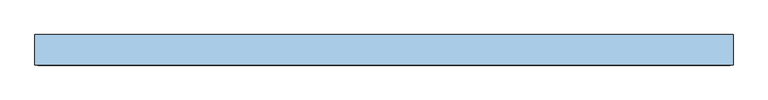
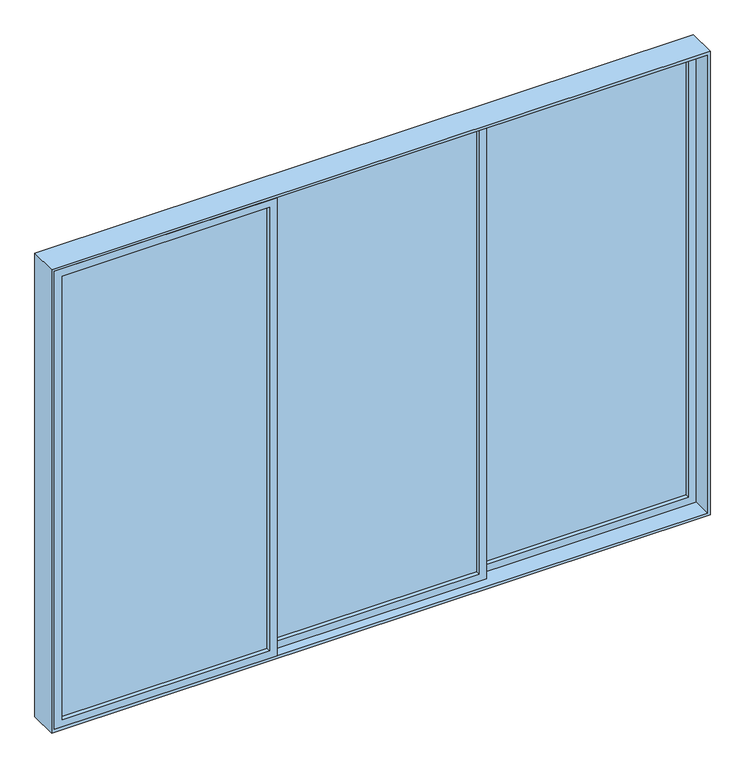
"""IFC4 building model written with IfcOpenShell, lengths in millimetres: window geometry, VENT_ALUM_CORR_3HOJAS_CORRE 2 : VD-1 / CORRE SALA 3.43 X 2.55."""

from ifc_helpers import new_model, si_unit, frame, origin, place, context, project, spatial, polyline, outline, extrude, source, transform, mapped, element, save


def window_82b69b40(model_context):
    return source(origin(), model_context, "Body", "SweptSolid", [
        extrude(outline(polyline([(-1660.0, -47.0), (-580.0, -47.0), (-580.0, -53.0), (-1660.0, -53.0), (-1660.0, -47.0)])), frame((0.0, 0.0, 855.0), z_axis=(0.0, 0.0, 1.0), x_axis=(1.0, 0.0, 0.0)), (0.0, 0.0, 1.0), 2440.0),
        extrude(outline(polyline([(815.0, -1700.0), (815.0, -540.0), (3335.0, -540.0), (3335.0, -1700.0), (815.0, -1700.0)]), holes=[polyline([(3295.0, -1660.0), (3295.0, -580.0), (855.0, -580.0), (855.0, -1660.0), (3295.0, -1660.0)])]), frame((0.0, -75.0, 0.0), z_axis=(0.0, 1.0, 0.0), x_axis=(0.0, 0.0, 1.0)), (0.0, 0.0, 1.0), 50.0),
        extrude(outline(polyline([(-540.0, 3.0), (540.0, 3.0), (540.0, -3.0), (-540.0, -3.0), (-540.0, 3.0)])), frame((0.0, 0.0, 855.0), z_axis=(0.0, 0.0, 1.0), x_axis=(1.0, 0.0, 0.0)), (0.0, 0.0, 1.0), 2440.0),
        extrude(outline(polyline([(815.0, -580.0), (815.0, 580.0), (3335.0, 580.0), (3335.0, -580.0), (815.0, -580.0)]), holes=[polyline([(3295.0, -540.0), (3295.0, 540.0), (855.0, 540.0), (855.0, -540.0), (3295.0, -540.0)])]), frame((0.0, -25.0, 0.0), z_axis=(0.0, 1.0, 0.0), x_axis=(0.0, 0.0, 1.0)), (0.0, 0.0, 1.0), 50.0),
        extrude(outline(polyline([(580.0, 53.0), (1660.0, 53.0), (1660.0, 47.0), (580.0, 47.0), (580.0, 53.0)])), frame((0.0, 0.0, 855.0), z_axis=(0.0, 0.0, 1.0), x_axis=(1.0, 0.0, 0.0)), (0.0, 0.0, 1.0), 2440.0),
        extrude(outline(polyline([(815.0, 540.0), (815.0, 1700.0), (3335.0, 1700.0), (3335.0, 540.0), (815.0, 540.0)]), holes=[polyline([(3295.0, 580.0), (3295.0, 1660.0), (855.0, 1660.0), (855.0, 580.0), (3295.0, 580.0)])]), frame((0.0, 25.0, 0.0), z_axis=(0.0, 1.0, 0.0), x_axis=(0.0, 0.0, 1.0)), (0.0, 0.0, 1.0), 50.0),
        extrude(outline(polyline([(800.0, -1715.0), (800.0, 1715.0), (3350.0, 1715.0), (3350.0, -1715.0), (800.0, -1715.0)]), holes=[polyline([(3335.0, -1700.0), (3335.0, 1700.0), (815.0, 1700.0), (815.0, -1700.0), (3335.0, -1700.0)])]), frame((0.0, -75.0, 0.0), z_axis=(0.0, 1.0, 0.0), x_axis=(0.0, 0.0, 1.0)), (0.0, 0.0, 1.0), 150.0),
    ])


if __name__ == "__main__":
    model = new_model("IFC4")
    model_context = context("Model", 3, world=origin())
    ifc_project = project(units=[si_unit("LENGTHUNIT", "METRE", prefix="MILLI")], contexts=[model_context])
    site = spatial("IfcSite", under=ifc_project)
    building = spatial("IfcBuilding", under=site)
    placement = place(None, origin())
    window_shape = window_82b69b40(model_context)
    element("IfcWindow", 1, ObjectType="VENT_ALUM_CORR_3HOJAS_CORRE 2 : VD-1 / CORRE SALA 3.43 X 2.55", at=placement, inside=building, context=model_context, shape_type="MappedRepresentation", body=[
        mapped(window_shape, transform((0.0, 0.0, 0.0), x_axis=(1.0, 0.0, 0.0), y_axis=(0.0, 1.0, 0.0), z_axis=(0.0, 0.0, 1.0))),
    ])
    save(model, "model.ifc")
